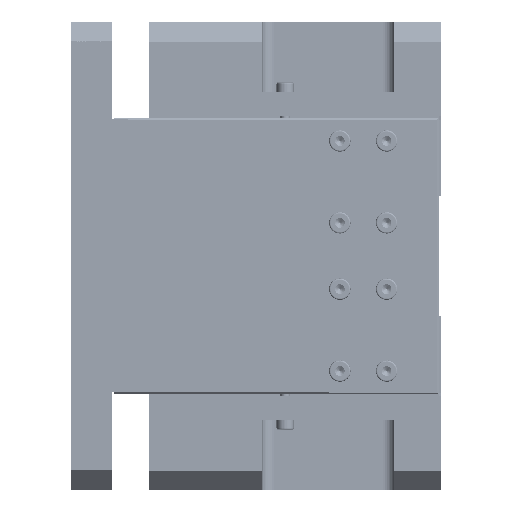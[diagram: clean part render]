
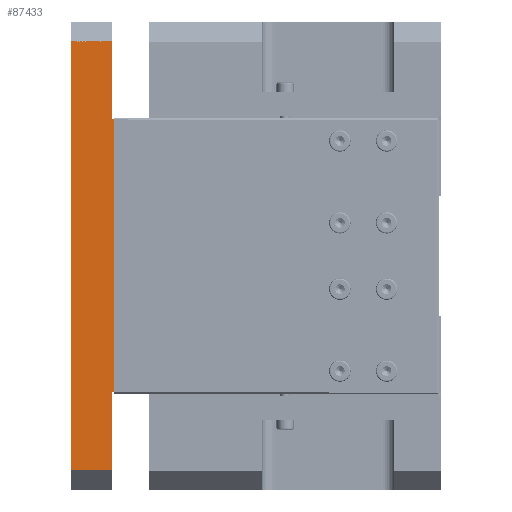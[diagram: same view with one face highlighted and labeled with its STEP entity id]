
A CAD part, left-side view. The second image highlights one B-rep face of the part: STEP entity #87433.
In plain terms, the highlighted planar face has unit normal (-1, 0, 0).
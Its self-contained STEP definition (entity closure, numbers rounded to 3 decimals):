
#1523 = VECTOR ( 'NONE', #144161, 1000. ) ;
#5857 = VECTOR ( 'NONE', #69984, 1000. ) ;
#7929 = CARTESIAN_POINT ( 'NONE',  ( -93.455, 42.573, -35.296 ) ) ;
#15117 = CARTESIAN_POINT ( 'NONE',  ( -93.455, 42.573, 34.704 ) ) ;
#23044 = DIRECTION ( 'NONE',  ( 0., 0., -1. ) ) ;
#24765 = VERTEX_POINT ( 'NONE', #37953 ) ;
#25838 = ORIENTED_EDGE ( 'NONE', *, *, #167014, .T. ) ;
#26418 = LINE ( 'NONE', #67301, #28477 ) ;
#28477 = VECTOR ( 'NONE', #41383, 1000. ) ;
#29333 = EDGE_CURVE ( 'NONE', #34864, #30460, #44486, .T. ) ;
#30460 = VERTEX_POINT ( 'NONE', #97919 ) ;
#31605 = VECTOR ( 'NONE', #155069, 1000. ) ;
#33621 = VERTEX_POINT ( 'NONE', #7929 ) ;
#34864 = VERTEX_POINT ( 'NONE', #48775 ) ;
#36479 = ORIENTED_EDGE ( 'NONE', *, *, #135763, .F. ) ;
#37953 = CARTESIAN_POINT ( 'NONE',  ( -93.455, 43.073, -55.296 ) ) ;
#38800 = VERTEX_POINT ( 'NONE', #43518 ) ;
#39335 = EDGE_CURVE ( 'NONE', #148631, #24765, #49695, .T. ) ;
#41383 = DIRECTION ( 'NONE',  ( 0., -1., 0. ) ) ;
#42447 = LINE ( 'NONE', #165697, #5857 ) ;
#42648 = EDGE_LOOP ( 'NONE', ( #81149, #56644, #165427, #36479, #104734, #46741, #155971, #25838 ) ) ;
#43518 = CARTESIAN_POINT ( 'NONE',  ( -93.455, 53.573, 54.704 ) ) ;
#44486 = LINE ( 'NONE', #159131, #1523 ) ;
#46578 = EDGE_CURVE ( 'NONE', #30460, #114962, #68235, .T. ) ;
#46741 = ORIENTED_EDGE ( 'NONE', *, *, #63895, .F. ) ;
#48775 = CARTESIAN_POINT ( 'NONE',  ( -93.455, 43.073, 54.704 ) ) ;
#49695 = LINE ( 'NONE', #150583, #150990 ) ;
#52921 = DIRECTION ( 'NONE',  ( 0., 0., 1. ) ) ;
#56644 = ORIENTED_EDGE ( 'NONE', *, *, #29333, .F. ) ;
#63895 = EDGE_CURVE ( 'NONE', #150314, #24765, #97043, .T. ) ;
#67301 = CARTESIAN_POINT ( 'NONE',  ( -93.455, 43.073, -35.296 ) ) ;
#68235 = LINE ( 'NONE', #112989, #31605 ) ;
#68674 = EDGE_CURVE ( 'NONE', #150314, #33621, #26418, .T. ) ;
#69269 = LINE ( 'NONE', #137213, #79994 ) ;
#69984 = DIRECTION ( 'NONE',  ( 0., 1., 0. ) ) ;
#77685 = DIRECTION ( 'NONE',  ( 0., 0., 1. ) ) ;
#79994 = VECTOR ( 'NONE', #52921, 1000. ) ;
#81149 = ORIENTED_EDGE ( 'NONE', *, *, #46578, .F. ) ;
#81299 = FACE_OUTER_BOUND ( 'NONE', #42648, .T. ) ;
#82935 = CARTESIAN_POINT ( 'NONE',  ( -93.455, 43.073, -35.296 ) ) ;
#87433 = ADVANCED_FACE ( 'NONE', ( #81299 ), #132322, .F. ) ;
#93907 = CARTESIAN_POINT ( 'NONE',  ( -93.455, 42.573, 59.704 ) ) ;
#97043 = LINE ( 'NONE', #105659, #170401 ) ;
#97919 = CARTESIAN_POINT ( 'NONE',  ( -93.455, 43.073, 34.704 ) ) ;
#104734 = ORIENTED_EDGE ( 'NONE', *, *, #39335, .T. ) ;
#105227 = DIRECTION ( 'NONE',  ( 0., 0., -1. ) ) ;
#105659 = CARTESIAN_POINT ( 'NONE',  ( -93.455, 43.073, 59.704 ) ) ;
#105911 = LINE ( 'NONE', #93907, #107993 ) ;
#107993 = VECTOR ( 'NONE', #77685, 1000. ) ;
#109376 = AXIS2_PLACEMENT_3D ( 'NONE', #173781, #146174, #105227 ) ;
#112989 = CARTESIAN_POINT ( 'NONE',  ( -93.455, 43.073, 34.704 ) ) ;
#114962 = VERTEX_POINT ( 'NONE', #15117 ) ;
#132322 = PLANE ( 'NONE',  #109376 ) ;
#135763 = EDGE_CURVE ( 'NONE', #148631, #38800, #69269, .T. ) ;
#137213 = CARTESIAN_POINT ( 'NONE',  ( -93.455, 53.573, 59.704 ) ) ;
#138492 = DIRECTION ( 'NONE',  ( 0., -1., 0. ) ) ;
#144161 = DIRECTION ( 'NONE',  ( 0., 0., -1. ) ) ;
#144654 = CARTESIAN_POINT ( 'NONE',  ( -93.455, 53.573, -55.296 ) ) ;
#146174 = DIRECTION ( 'NONE',  ( 1., 0., 0. ) ) ;
#148631 = VERTEX_POINT ( 'NONE', #144654 ) ;
#150314 = VERTEX_POINT ( 'NONE', #82935 ) ;
#150583 = CARTESIAN_POINT ( 'NONE',  ( -93.455, 53.573, -55.296 ) ) ;
#150990 = VECTOR ( 'NONE', #138492, 1000. ) ;
#155069 = DIRECTION ( 'NONE',  ( 0., -1., 0. ) ) ;
#155971 = ORIENTED_EDGE ( 'NONE', *, *, #68674, .T. ) ;
#157772 = EDGE_CURVE ( 'NONE', #34864, #38800, #42447, .T. ) ;
#159131 = CARTESIAN_POINT ( 'NONE',  ( -93.455, 43.073, 59.704 ) ) ;
#165427 = ORIENTED_EDGE ( 'NONE', *, *, #157772, .T. ) ;
#165697 = CARTESIAN_POINT ( 'NONE',  ( -93.455, 53.573, 54.704 ) ) ;
#167014 = EDGE_CURVE ( 'NONE', #33621, #114962, #105911, .T. ) ;
#170401 = VECTOR ( 'NONE', #23044, 1000. ) ;
#173781 = CARTESIAN_POINT ( 'NONE',  ( -93.455, 53.573, 59.704 ) ) ;
